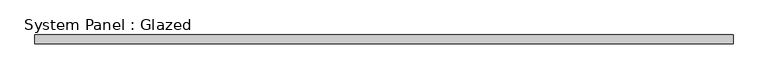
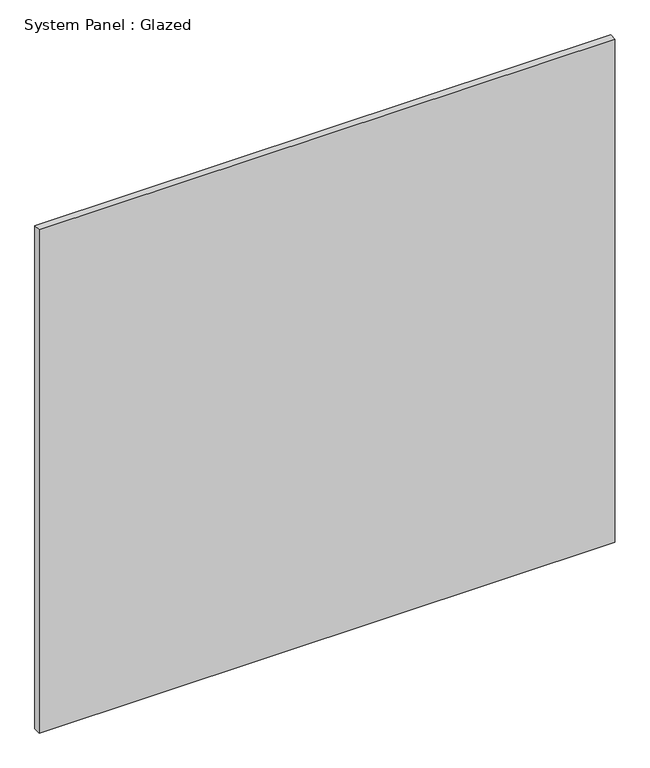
"""IFC4 building model written with IfcOpenShell, lengths in millimetres: plate geometry, System Panel : Glazed."""

from ifc_helpers import new_model, si_unit, origin, origin_with_axes, place, context, project, spatial, polyline, outline, extrude, source, transform, mapped, element, save


def system_panel_glazed_f9cea265(model_context):
    return source(origin(), model_context, "Body", "SweptSolid", [
        extrude(outline(polyline([(989.2021654, 19.05), (-989.2021654, 19.05), (-989.2021654, 44.45), (989.2021654, 44.45), (989.2021654, 19.05)])), origin_with_axes(), (0.0, 0.0, 1.0), 1828.8),
    ])


if __name__ == "__main__":
    model = new_model("IFC4")
    model_context = context("Model", 3, world=origin())
    ifc_project = project(units=[si_unit("LENGTHUNIT", "METRE", prefix="MILLI")], contexts=[model_context])
    site = spatial("IfcSite", under=ifc_project)
    building = spatial("IfcBuilding", under=site)
    placement = place(None, origin())
    system_panel_glazed_shape = system_panel_glazed_f9cea265(model_context)
    element("IfcPlate", 1, ObjectType="System Panel : Glazed", at=placement, inside=building, context=model_context, shape_type="MappedRepresentation", body=[
        mapped(system_panel_glazed_shape, transform((0.0, 0.0, 0.0), x_axis=(1.0, 0.0, 0.0), y_axis=(0.0, 1.0, 0.0), z_axis=(0.0, 0.0, 1.0))),
    ])
    save(model, "model.ifc")
